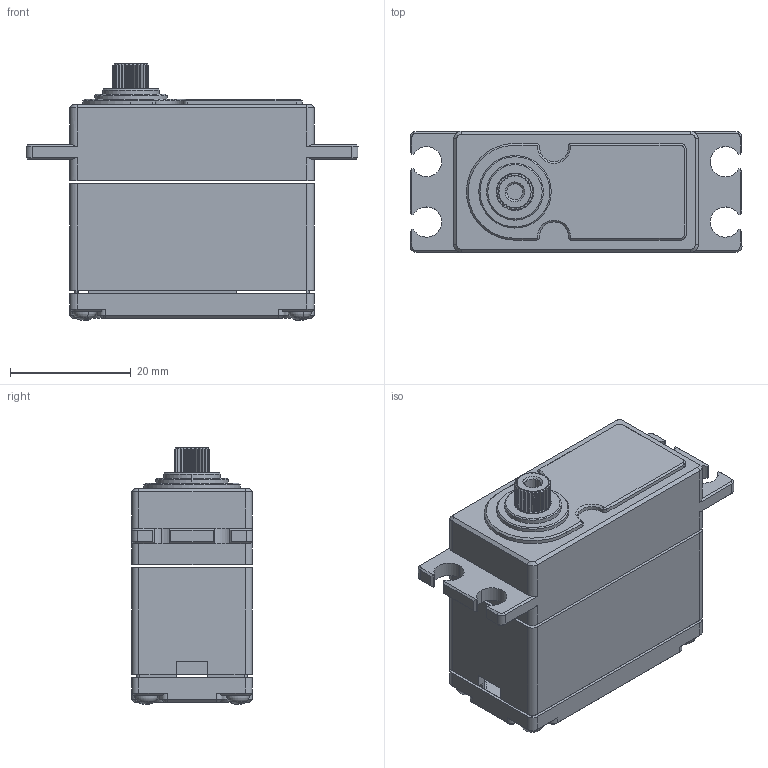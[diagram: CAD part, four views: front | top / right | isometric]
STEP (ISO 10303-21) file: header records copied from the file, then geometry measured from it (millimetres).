
FILE_DESCRIPTION (( 'STEP AP214' ), '1' );
FILE_NAME ('CM3510_DM_202305.STEP', '2023-11-01T08:23:49', ( '' ), ( '' ), 'SwSTEP 2.0', 'SolidWorks 2016', '' );
FILE_SCHEMA (( 'AUTOMOTIVE_DESIGN' ));
Length unit declared in the file: millimetre
Products named in the file (1): CM3510_DM_202305
Bounding box: 55 x 20 x 42.56 mm (x, y, z)
Surface area: 8386.9 mm2 (no closed solid volume)
Topology: 0 solids, 13 shells, 446 faces, 1251 edges, 824 vertices
Faces by surface type: plane 225, cylinder 127, cone 76, torus 8, sphere 8, bspline 2
Entity records: 19350 total; most frequent: CARTESIAN_POINT 2798, DIRECTION 2521, ORIENTED_EDGE 2358, EDGE_CURVE 1251, AXIS2_PLACEMENT_3D 912, VERTEX_POINT 824, LINE 697, VECTOR 697
